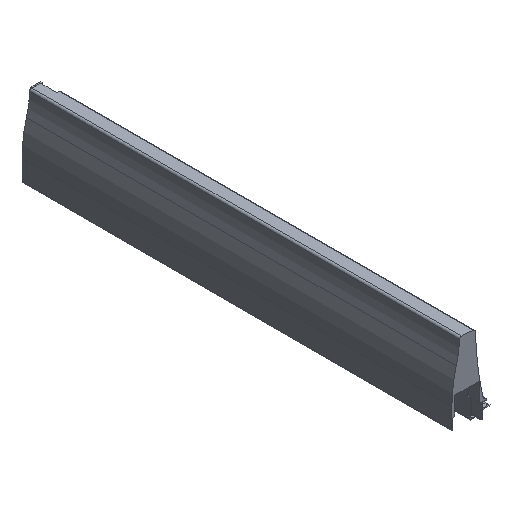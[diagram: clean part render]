
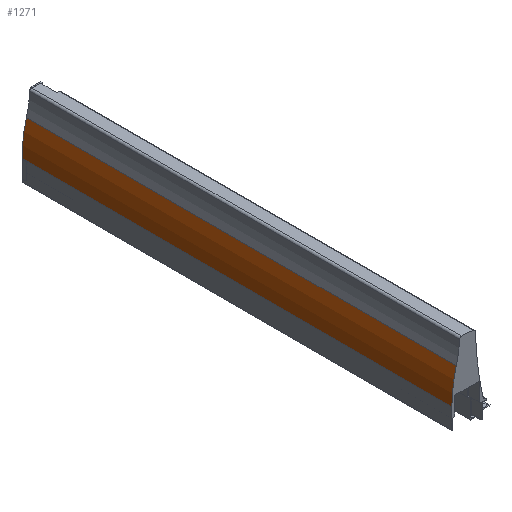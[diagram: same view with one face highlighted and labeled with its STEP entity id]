
A CAD part, isometric view. The second image highlights one B-rep face of the part: STEP entity #1271.
In plain terms, the highlighted cylindrical face has radius 130.3 mm (diameter 260.6 mm), a partial arc.
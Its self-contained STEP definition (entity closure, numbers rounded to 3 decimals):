
#275 = CARTESIAN_POINT ( 'NONE',  ( -4.1, 440., -7.695 ) ) ;
#280 = DIRECTION ( 'NONE',  ( 0., -1., 0. ) ) ;
#362 = CARTESIAN_POINT ( 'NONE',  ( 126.2, 440., -7.695 ) ) ;
#364 = DIRECTION ( 'NONE',  ( 0., -1., 0. ) ) ;
#365 = DIRECTION ( 'NONE',  ( 1., 0., 0. ) ) ;
#440 = CARTESIAN_POINT ( 'NONE',  ( 0.401, 440., 26.255 ) ) ;
#441 = DIRECTION ( 'NONE',  ( 0., -1., 0. ) ) ;
#804 = CARTESIAN_POINT ( 'NONE',  ( 126.2, 0., -7.695 ) ) ;
#821 = DIRECTION ( 'NONE',  ( 0., -1., 0. ) ) ;
#822 = DIRECTION ( 'NONE',  ( 1., 0., 0. ) ) ;
#1190 = CARTESIAN_POINT ( 'NONE',  ( 0.401, 440., 26.255 ) ) ;
#1191 = CARTESIAN_POINT ( 'NONE',  ( -4.1, 440., -7.695 ) ) ;
#1212 = CARTESIAN_POINT ( 'NONE',  ( 0.401, 0., 26.255 ) ) ;
#1271 = ADVANCED_FACE ( 'NONE', ( #2302 ), #2307, .T. ) ;
#1423 = CARTESIAN_POINT ( 'NONE',  ( -4.1, 0., -7.695 ) ) ;
#1955 = EDGE_CURVE ( 'NONE', #3854, #3876, #2643, .T. ) ;
#2012 = EDGE_CURVE ( 'NONE', #3853, #3854, #2762, .T. ) ;
#2066 = EDGE_CURVE ( 'NONE', #3853, #3875, #2857, .T. ) ;
#2099 = AXIS2_PLACEMENT_3D ( 'NONE', #4101, #4100, #4099 ) ;
#2302 = FACE_OUTER_BOUND ( 'NONE', #4252, .T. ) ;
#2307 = CYLINDRICAL_SURFACE ( 'NONE', #2099, 130.3 ) ;
#2433 = AXIS2_PLACEMENT_3D ( 'NONE', #362, #364, #365 ) ;
#2643 = LINE ( 'NONE', #275, #2653 ) ;
#2653 = VECTOR ( 'NONE', #280, 1000. ) ;
#2762 = CIRCLE ( 'NONE', #2433, 130.3 ) ;
#2796 = EDGE_CURVE ( 'NONE', #3875, #3876, #3262, .T. ) ;
#2857 = LINE ( 'NONE', #440, #2859 ) ;
#2859 = VECTOR ( 'NONE', #441, 1000. ) ;
#3040 = AXIS2_PLACEMENT_3D ( 'NONE', #804, #821, #822 ) ;
#3262 = CIRCLE ( 'NONE', #3040, 130.3 ) ;
#3853 = VERTEX_POINT ( 'NONE', #1190 ) ;
#3854 = VERTEX_POINT ( 'NONE', #1191 ) ;
#3875 = VERTEX_POINT ( 'NONE', #1212 ) ;
#3876 = VERTEX_POINT ( 'NONE', #1423 ) ;
#4099 = DIRECTION ( 'NONE',  ( -1., 0., 0. ) ) ;
#4100 = DIRECTION ( 'NONE',  ( 0., -1., 0. ) ) ;
#4101 = CARTESIAN_POINT ( 'NONE',  ( 126.2, 440., -7.695 ) ) ;
#4252 = EDGE_LOOP ( 'NONE', ( #4271, #4270, #4269, #4268 ) ) ;
#4268 = ORIENTED_EDGE ( 'NONE', *, *, #1955, .T. ) ;
#4269 = ORIENTED_EDGE ( 'NONE', *, *, #2012, .T. ) ;
#4270 = ORIENTED_EDGE ( 'NONE', *, *, #2066, .F. ) ;
#4271 = ORIENTED_EDGE ( 'NONE', *, *, #2796, .F. ) ;
